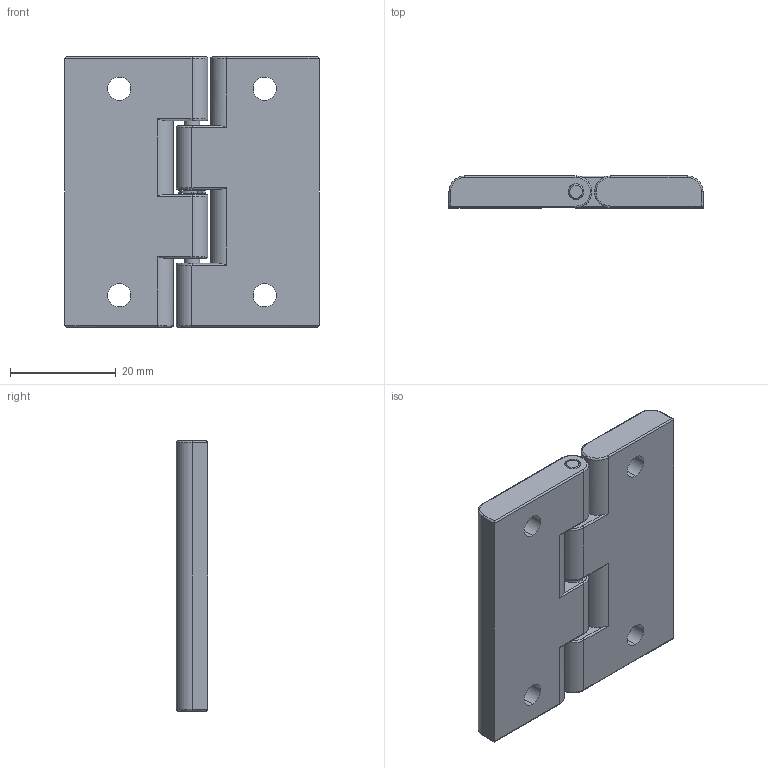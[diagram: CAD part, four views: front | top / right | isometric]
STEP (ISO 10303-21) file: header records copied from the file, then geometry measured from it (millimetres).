
FILE_DESCRIPTION (( 'STEP AP203' ), '1' );
FILE_NAME ('B60 KH-P26.STEP', '2010-10-11T05:52:12', ( ' ' ), ( '' ), 'SwSTEP 2.0', 'SolidWorks 2010', '' );
FILE_SCHEMA (( 'CONFIG_CONTROL_DESIGN' ));
Length unit declared in the file: millimetre
Products named in the file (4): H022-04-001; B60 KH-P26; H002-04-002; E rings GB_GB_CONNECTING_PIECE_RINGS_HR 2
Assembly tree (4 placements, depth 2):
  B60 KH-P26
    H022-04-001  x2
    H002-04-002
    E rings GB_GB_CONNECTING_PIECE_RINGS_HR 2
Bounding box: 48 x 6 x 51 mm (x, y, z)
Volume: 13057.3 mm3; surface area: 7642.7 mm2
Topology: 4 solids, 4 shells, 138 faces, 336 edges, 212 vertices
Faces by surface type: cylinder 80, plane 32, bspline 22, cone 4
Entity records: 3245 total; most frequent: CARTESIAN_POINT 736, DIRECTION 459, ORIENTED_EDGE 428, EDGE_CURVE 214, AXIS2_PLACEMENT_3D 184, VERTEX_POINT 136, EDGE_LOOP 100, CIRCLE 100
